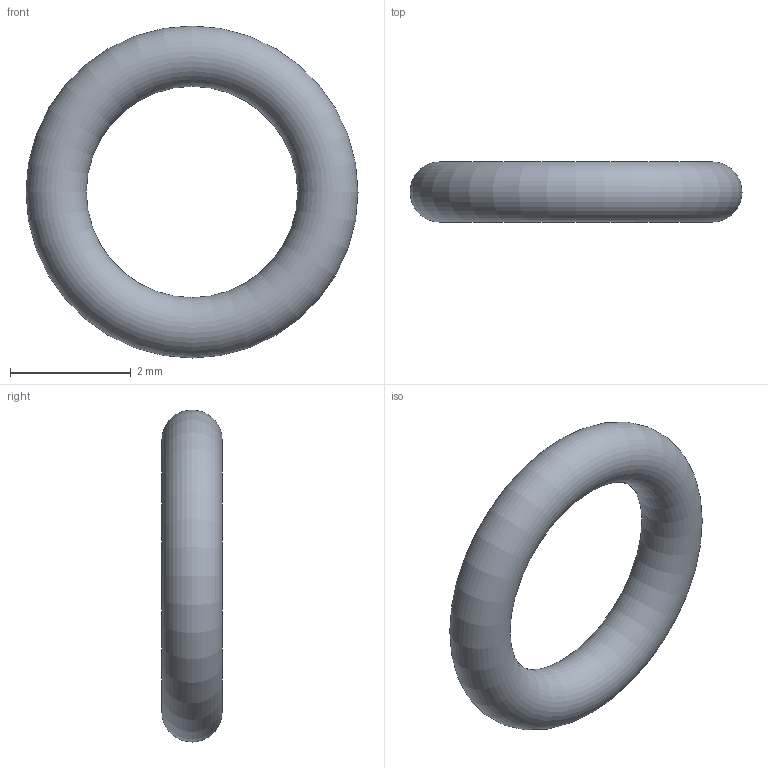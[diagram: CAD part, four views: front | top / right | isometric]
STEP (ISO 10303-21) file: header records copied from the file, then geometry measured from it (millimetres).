
FILE_DESCRIPTION( ( 'STEP AP203' ), '1' );
FILE_NAME( 'C:/Temp/Ganter_Step_05_03_2020/data/3_5/or638/O-Ring OR638-3.50-1.00-70.stp', '2020-03-12T13:44:15', ( 'License CC BY-ND 4.0' ), ( 'CADENAS' ), ' ', 'PARTsolutions', ' ' );
FILE_SCHEMA( ( 'CONFIG_CONTROL_DESIGN' ) );
Length unit declared in the file: millimetre
Products named in the file (1): _O-Ring OR638-3.50-1.00-70
Bounding box: 5.5 x 1 x 5.5 mm (x, y, z)
Volume: 11.1 mm3; surface area: 44.4 mm2
Topology: 1 solids, 1 shells, 1 faces, 2 edges, 1 vertices
Faces by surface type: torus 1
Entity records: 62 total; most frequent: CC_DESIGN_PERSON_AND_ORGANIZATION_ASSIGNMENT 5, PERSON_AND_ORGANIZATION_ROLE 4, DIRECTION 4, CARTESIAN_POINT 3, DATE_TIME_ROLE 2, CC_DESIGN_DATE_AND_TIME_ASSIGNMENT 2, AXIS2_PLACEMENT_3D 2, DIMENSIONAL_EXPONENTS 2
